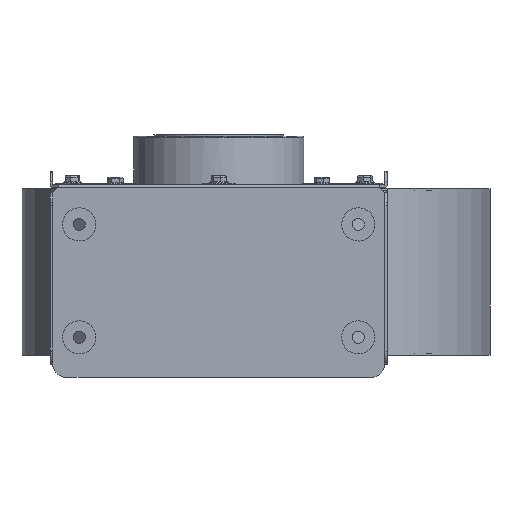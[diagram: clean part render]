
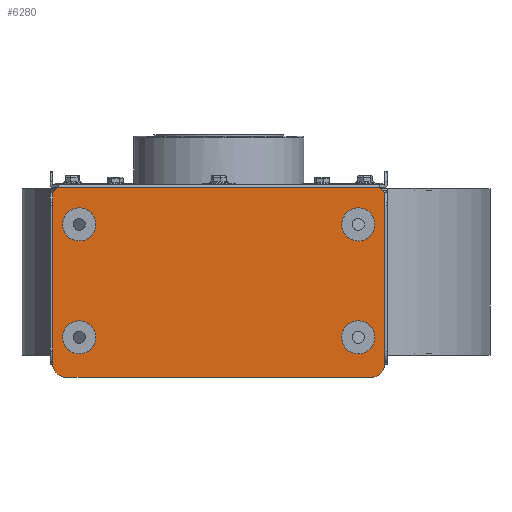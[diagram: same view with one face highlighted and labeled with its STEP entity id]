
A CAD part, front view. The second image highlights one B-rep face of the part: STEP entity #6280.
In plain terms, the highlighted planar face has unit normal (0, -1, 0).
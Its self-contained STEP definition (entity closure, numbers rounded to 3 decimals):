
#188=LINE('',#10314,#595);
#189=LINE('',#10317,#596);
#190=LINE('',#10319,#597);
#191=LINE('',#10321,#598);
#192=LINE('',#10325,#599);
#193=LINE('',#10329,#600);
#595=VECTOR('',#7838,1000.);
#596=VECTOR('',#7839,1000.);
#597=VECTOR('',#7840,1000.);
#598=VECTOR('',#7841,1000.);
#599=VECTOR('',#7844,1000.);
#600=VECTOR('',#7847,1000.);
#978=PLANE('',#6813);
#1340=ORIENTED_EDGE('',*,*,#3028,.T.);
#1341=ORIENTED_EDGE('',*,*,#3029,.T.);
#1342=ORIENTED_EDGE('',*,*,#3030,.T.);
#1343=ORIENTED_EDGE('',*,*,#3031,.T.);
#1344=ORIENTED_EDGE('',*,*,#3032,.F.);
#1345=ORIENTED_EDGE('',*,*,#3033,.T.);
#1346=ORIENTED_EDGE('',*,*,#3034,.F.);
#1347=ORIENTED_EDGE('',*,*,#3035,.F.);
#1348=ORIENTED_EDGE('',*,*,#3036,.T.);
#1349=ORIENTED_EDGE('',*,*,#3037,.T.);
#1350=ORIENTED_EDGE('',*,*,#3038,.F.);
#1351=ORIENTED_EDGE('',*,*,#3039,.T.);
#3028=EDGE_CURVE('',#3903,#3903,#4492,.T.);
#3029=EDGE_CURVE('',#3904,#3904,#4493,.T.);
#3030=EDGE_CURVE('',#3905,#3905,#4494,.T.);
#3031=EDGE_CURVE('',#3906,#3906,#4495,.T.);
#3032=EDGE_CURVE('',#3907,#3908,#188,.T.);
#3033=EDGE_CURVE('',#3907,#3909,#189,.F.);
#3034=EDGE_CURVE('',#3910,#3909,#190,.T.);
#3035=EDGE_CURVE('',#3911,#3910,#191,.T.);
#3036=EDGE_CURVE('',#3911,#3912,#4496,.T.);
#3037=EDGE_CURVE('',#3912,#3913,#192,.T.);
#3038=EDGE_CURVE('',#3914,#3913,#4497,.T.);
#3039=EDGE_CURVE('',#3914,#3908,#193,.T.);
#3903=VERTEX_POINT('',#10307);
#3904=VERTEX_POINT('',#10309);
#3905=VERTEX_POINT('',#10311);
#3906=VERTEX_POINT('',#10313);
#3907=VERTEX_POINT('',#10315);
#3908=VERTEX_POINT('',#10316);
#3909=VERTEX_POINT('',#10318);
#3910=VERTEX_POINT('',#10320);
#3911=VERTEX_POINT('',#10322);
#3912=VERTEX_POINT('',#10324);
#3913=VERTEX_POINT('',#10326);
#3914=VERTEX_POINT('',#10328);
#4492=CIRCLE('',#6814,6.05);
#4493=CIRCLE('',#6815,6.05);
#4494=CIRCLE('',#6816,6.05);
#4495=CIRCLE('',#6817,6.05);
#4496=CIRCLE('',#6818,10.);
#4497=CIRCLE('',#6819,10.);
#5000=EDGE_LOOP('',(#1340));
#5001=EDGE_LOOP('',(#1341));
#5002=EDGE_LOOP('',(#1342));
#5003=EDGE_LOOP('',(#1343));
#5004=EDGE_LOOP('',(#1344,#1345,#1346,#1347,#1348,#1349,#1350,#1351));
#5556=FACE_BOUND('',#5000,.T.);
#5557=FACE_BOUND('',#5001,.T.);
#5558=FACE_BOUND('',#5002,.T.);
#5559=FACE_BOUND('',#5003,.T.);
#5560=FACE_BOUND('',#5004,.T.);
#6280=ADVANCED_FACE('',(#5556,#5557,#5558,#5559,#5560),#978,.T.);
#6813=AXIS2_PLACEMENT_3D('',#10305,#7828,#7829);
#6814=AXIS2_PLACEMENT_3D('',#10306,#7830,#7831);
#6815=AXIS2_PLACEMENT_3D('',#10308,#7832,#7833);
#6816=AXIS2_PLACEMENT_3D('',#10310,#7834,#7835);
#6817=AXIS2_PLACEMENT_3D('',#10312,#7836,#7837);
#6818=AXIS2_PLACEMENT_3D('',#10323,#7842,#7843);
#6819=AXIS2_PLACEMENT_3D('',#10327,#7845,#7846);
#7828=DIRECTION('',(0.,-1.,0.));
#7829=DIRECTION('',(0.,0.,-1.));
#7830=DIRECTION('',(0.,1.,0.));
#7831=DIRECTION('',(0.,0.,-1.));
#7832=DIRECTION('',(0.,1.,0.));
#7833=DIRECTION('',(0.,0.,-1.));
#7834=DIRECTION('',(0.,1.,0.));
#7835=DIRECTION('',(0.,0.,-1.));
#7836=DIRECTION('',(0.,1.,0.));
#7837=DIRECTION('',(0.,0.,-1.));
#7838=DIRECTION('',(-0.707,0.,0.707));
#7839=DIRECTION('',(-1.,0.,0.));
#7840=DIRECTION('',(-0.706,0.,-0.708));
#7841=DIRECTION('',(0.,0.,-1.));
#7842=DIRECTION('',(0.,-1.,0.));
#7843=DIRECTION('',(0.,0.,-1.));
#7844=DIRECTION('',(-1.,0.,0.));
#7845=DIRECTION('',(0.,1.,0.));
#7846=DIRECTION('',(0.,0.,-1.));
#7847=DIRECTION('',(0.,0.,-1.));
#10305=CARTESIAN_POINT('',(-125.,-199.,145.));
#10306=CARTESIAN_POINT('',(-105.003,-199.,115.));
#10307=CARTESIAN_POINT('',(-105.003,-199.,108.95));
#10308=CARTESIAN_POINT('',(104.997,-199.,115.));
#10309=CARTESIAN_POINT('',(104.997,-199.,108.95));
#10310=CARTESIAN_POINT('',(104.997,-199.,30.));
#10311=CARTESIAN_POINT('',(104.997,-199.,23.95));
#10312=CARTESIAN_POINT('',(-105.003,-199.,30.));
#10313=CARTESIAN_POINT('',(-105.003,-199.,23.95));
#10314=CARTESIAN_POINT('',(-121.,-199.,2.));
#10315=CARTESIAN_POINT('',(-121.,-199.,2.));
#10316=CARTESIAN_POINT('',(-125.,-199.,6.));
#10317=CARTESIAN_POINT('',(-125.,-199.,2.));
#10318=CARTESIAN_POINT('',(121.,-199.,2.));
#10319=CARTESIAN_POINT('',(124.993,-199.,6.));
#10320=CARTESIAN_POINT('',(124.993,-199.,6.));
#10321=CARTESIAN_POINT('',(124.993,-199.,145.));
#10322=CARTESIAN_POINT('',(124.993,-199.,135.263));
#10323=CARTESIAN_POINT('',(114.997,-199.,135.));
#10324=CARTESIAN_POINT('',(114.997,-199.,145.));
#10325=CARTESIAN_POINT('',(-125.,-199.,145.));
#10326=CARTESIAN_POINT('',(-115.003,-199.,145.));
#10327=CARTESIAN_POINT('',(-115.003,-199.,135.));
#10328=CARTESIAN_POINT('',(-125.,-199.,135.263));
#10329=CARTESIAN_POINT('',(-125.,-199.,145.));
